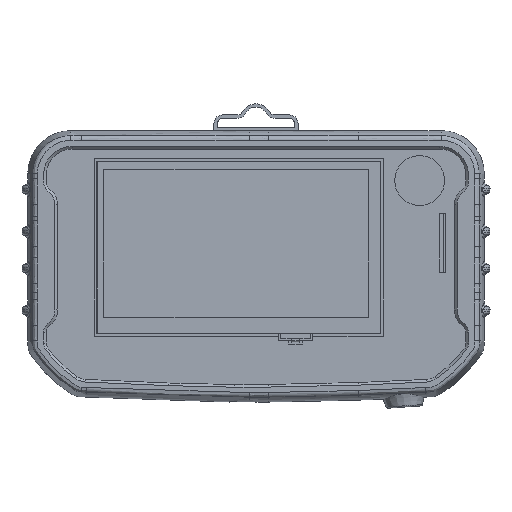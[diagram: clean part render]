
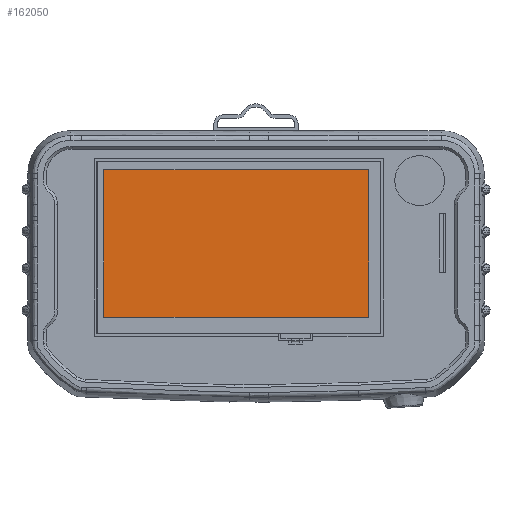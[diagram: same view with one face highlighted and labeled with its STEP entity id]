
A CAD part, front view. The second image highlights one B-rep face of the part: STEP entity #162050.
In plain terms, the highlighted planar face has unit normal (0, -1, 0).
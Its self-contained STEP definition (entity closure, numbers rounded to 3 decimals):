
#14676 = CARTESIAN_POINT ( 'NONE',  ( 53.998, 119.664, 251.32 ) ) ;
#19907 = ORIENTED_EDGE ( 'NONE', *, *, #25835, .F. ) ;
#19991 = CARTESIAN_POINT ( 'NONE',  ( -100.082, 119.664, 165.4 ) ) ;
#21354 = VECTOR ( 'NONE', #114927, 1000. ) ;
#22766 = VERTEX_POINT ( 'NONE', #192064 ) ;
#23267 = DIRECTION ( 'NONE',  ( 1., 0., 0. ) ) ;
#25835 = EDGE_CURVE ( 'NONE', #125382, #22766, #47466, .T. ) ;
#25874 = EDGE_CURVE ( 'NONE', #56477, #125382, #170388, .T. ) ;
#29487 = CARTESIAN_POINT ( 'NONE',  ( 53.998, 119.664, 165.4 ) ) ;
#45746 = ORIENTED_EDGE ( 'NONE', *, *, #25874, .F. ) ;
#46635 = FACE_OUTER_BOUND ( 'NONE', #133483, .T. ) ;
#47466 = LINE ( 'NONE', #185179, #86644 ) ;
#50351 = ORIENTED_EDGE ( 'NONE', *, *, #200217, .F. ) ;
#56477 = VERTEX_POINT ( 'NONE', #29487 ) ;
#61878 = CARTESIAN_POINT ( 'NONE',  ( 53.998, 119.664, 251.32 ) ) ;
#72453 = VECTOR ( 'NONE', #23267, 1000. ) ;
#81398 = VECTOR ( 'NONE', #138231, 1000. ) ;
#86644 = VECTOR ( 'NONE', #151515, 1000. ) ;
#104158 = DIRECTION ( 'NONE',  ( 0., 0., -1. ) ) ;
#114927 = DIRECTION ( 'NONE',  ( 0., 0., -1. ) ) ;
#125382 = VERTEX_POINT ( 'NONE', #213717 ) ;
#131870 = ORIENTED_EDGE ( 'NONE', *, *, #185401, .F. ) ;
#133483 = EDGE_LOOP ( 'NONE', ( #50351, #131870, #19907, #45746 ) ) ;
#138231 = DIRECTION ( 'NONE',  ( -1., 0., 0. ) ) ;
#140258 = CARTESIAN_POINT ( 'NONE',  ( -100.082, 119.664, 251.32 ) ) ;
#151515 = DIRECTION ( 'NONE',  ( 0., 0., 1. ) ) ;
#154880 = LINE ( 'NONE', #14676, #21354 ) ;
#162050 = ADVANCED_FACE ( 'NONE', ( #46635 ), #170739, .T. ) ;
#162811 = AXIS2_PLACEMENT_3D ( 'NONE', #19991, #204475, #104158 ) ;
#166697 = LINE ( 'NONE', #140258, #72453 ) ;
#170388 = LINE ( 'NONE', #188033, #81398 ) ;
#170739 = PLANE ( 'NONE',  #162811 ) ;
#185179 = CARTESIAN_POINT ( 'NONE',  ( -100.082, 119.664, 251.32 ) ) ;
#185401 = EDGE_CURVE ( 'NONE', #22766, #187677, #166697, .T. ) ;
#187677 = VERTEX_POINT ( 'NONE', #61878 ) ;
#188033 = CARTESIAN_POINT ( 'NONE',  ( -100.082, 119.664, 165.4 ) ) ;
#192064 = CARTESIAN_POINT ( 'NONE',  ( -100.082, 119.664, 251.32 ) ) ;
#200217 = EDGE_CURVE ( 'NONE', #187677, #56477, #154880, .T. ) ;
#204475 = DIRECTION ( 'NONE',  ( 0., -1., 0. ) ) ;
#213717 = CARTESIAN_POINT ( 'NONE',  ( -100.082, 119.664, 165.4 ) ) ;
